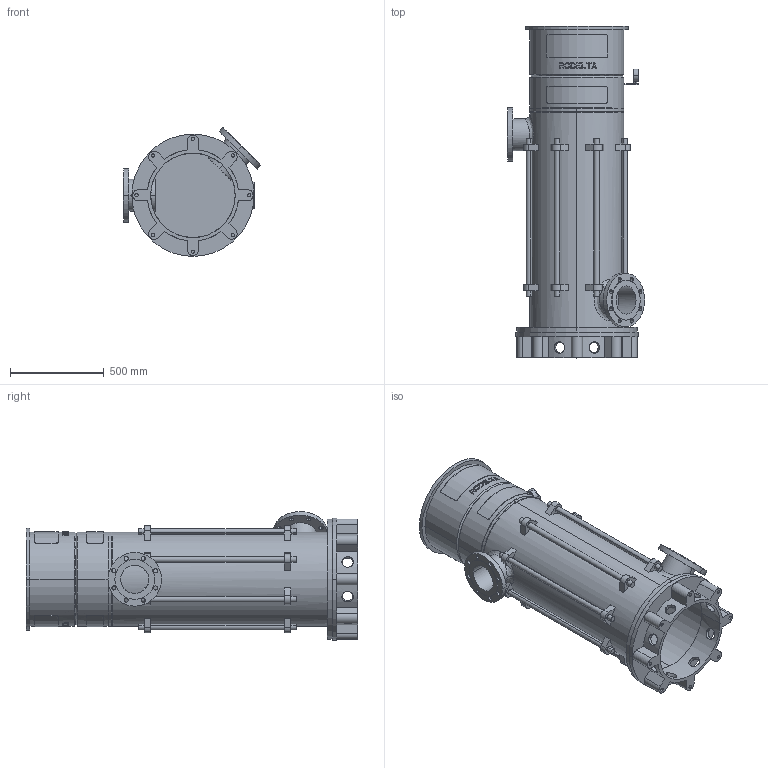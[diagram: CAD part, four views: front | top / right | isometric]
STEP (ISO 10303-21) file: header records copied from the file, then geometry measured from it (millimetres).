
FILE_DESCRIPTION((''),'2;1');
FILE_NAME('LS6_5TR_0GR_PN16_ABOVE_30KW','2025-10-23T15:40:01',('Lyritlocal'),(''),'CREO PARAMETRIC BY PTC INC, 2022014','CREO PARAMETRIC BY PTC INC, 2022014','');
FILE_SCHEMA(('CONFIG_CONTROL_DESIGN'));
Length unit declared in the file: millimetre
Products named in the file (1): LS6_5TR_0GR_PN16_ABOVE_30KW
Bounding box: 730.27 x 1765 x 685.27 mm (x, y, z)
Volume: 56775688.7 mm3; surface area: 7959214.9 mm2
Topology: 3 solids, 11 shells, 732 faces, 1889 edges, 1258 vertices
Faces by surface type: plane 438, cylinder 274, cone 12, bspline 8
Entity records: 24204 total; most frequent: CARTESIAN_POINT 6384, ORIENTED_EDGE 3746, DIRECTION 3535, EDGE_CURVE 1889, AXIS2_PLACEMENT_3D 1341, VERTEX_POINT 1258, EDGE_LOOP 895, VECTOR 853
